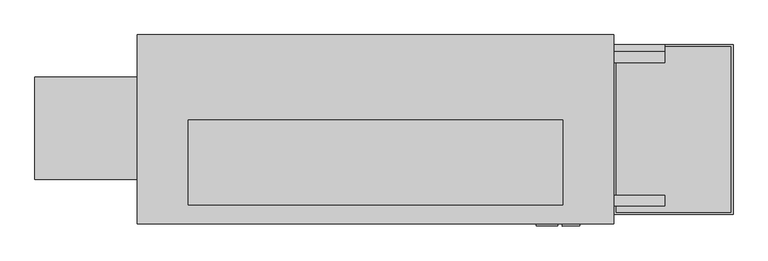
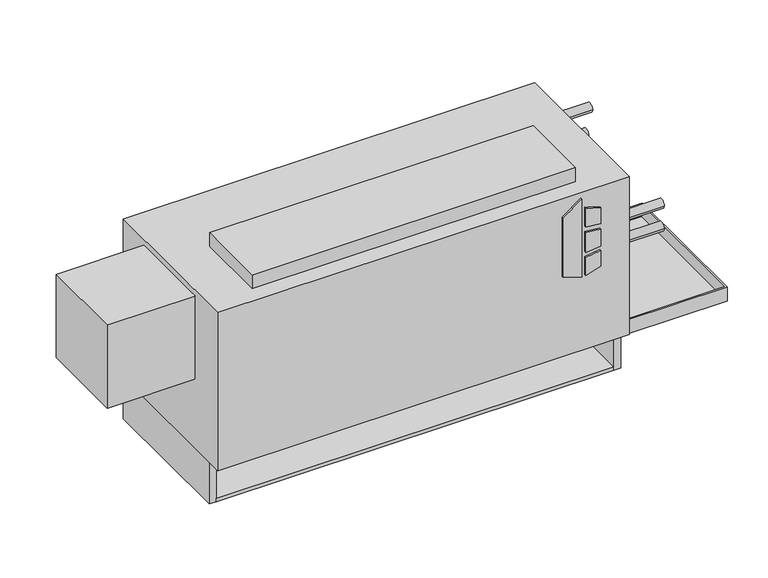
"""IFC4 building model written with IfcOpenShell, lengths in millimetres: proxy geometry, Concealed_Vertical_Low_Boy_Fan_Coil_Unit Fan_-_LHA_-_IEC_-_4-Pipe_RH_2022 : Size 03 - 277v/60Hz/1Ph - 2/1 Coil."""

import ifcopenshell
import ifcopenshell.guid

model = None  # the IFC model being written
_history = None  # IfcOwnerHistory: only IFC2X3 demands one
_inside = {}  # id of a spatial element -> (the spatial element, [elements in it])
_under = {}  # id of a project, library or spatial element -> (it, [spatial elements below it])
_declared = {}  # id of a project -> (the project, [libraries it declares])
_typed = {}  # id of a type object -> (the type object, [elements of that type])
_made_of = {}  # id of a material, layer set ... -> (it, [elements and type objects made of it])


def new_model(schema):
    """Start an empty IFC model of exactly this schema.

    Asked for "IFC4X3", IfcOpenShell would pick the latest addendum, in which some entities
    have other attributes; the version numbers below select the first issue.
    IFC2X3 requires an IfcOwnerHistory on every rooted entity: one is made here for all.
    """
    global model, _history
    if schema == "IFC4X3":
        model = ifcopenshell.file(schema_version=(4, 3, 0, 0))
    else:
        model = ifcopenshell.file(schema=schema)
    _inside.clear()
    _under.clear()
    _declared.clear()
    _typed.clear()
    _made_of.clear()
    _history = None
    if model.schema == "IFC2X3":
        org = make("IfcOrganization", Name="unknown")
        user = make(
            "IfcPersonAndOrganization",
            ThePerson=make("IfcPerson", FamilyName="unknown"),
            TheOrganization=org,
        )
        app = make(
            "IfcApplication",
            ApplicationDeveloper=org,
            Version="unknown",
            ApplicationFullName="unknown",
            ApplicationIdentifier="unknown",
        )
        _history = make(
            "IfcOwnerHistory",
            OwningUser=user,
            OwningApplication=app,
            ChangeAction="ADDED",
            CreationDate=0,
        )
    return model


def make(cls, **values):
    """One entity of the class cls with the attributes given. An attribute that is None is left unset."""
    return model.create_entity(
        cls, **{name: value for name, value in values.items() if value is not None}
    )


def rooted(cls, **values):
    """An entity with a GlobalId (a new one), such as an element, a storey or a relation."""
    return make(cls, GlobalId=ifcopenshell.guid.new(), OwnerHistory=_history, **values)


def si_unit(unit_type, name, prefix=None):
    """IfcSIUnit, for example si_unit("LENGTHUNIT", "METRE", prefix="MILLI")."""
    return make("IfcSIUnit", UnitType=unit_type, Prefix=prefix, Name=name)


def assignment(units):
    """IfcUnitAssignment: the units of a project."""
    return None if units is None else make("IfcUnitAssignment", Units=units)


def point(xyz):
    """IfcCartesianPoint."""
    return None if xyz is None else make("IfcCartesianPoint", Coordinates=xyz)


def direction(xyz):
    """IfcDirection."""
    return None if xyz is None else make("IfcDirection", DirectionRatios=xyz)


def frame(location, z_axis=None, x_axis=None):
    """IfcAxis2Placement3D, a coordinate frame: its origin and axes. An axis left out is left unset."""
    return make(
        "IfcAxis2Placement3D",
        Location=point(location),
        Axis=direction(z_axis),
        RefDirection=direction(x_axis),
    )


def frame_2d(location, x_axis=None):
    """IfcAxis2Placement2D, a coordinate frame in the plane: its origin and x axis."""
    return make(
        "IfcAxis2Placement2D", Location=point(location), RefDirection=direction(x_axis)
    )


def origin():
    """The frame at (0, 0, 0) with its axes left unset."""
    return frame((0.0, 0.0, 0.0))


def origin_with_axes():
    """The frame at (0, 0, 0) with the z axis (0, 0, 1) and the x axis (1, 0, 0) written out."""
    return frame((0.0, 0.0, 0.0), z_axis=(0.0, 0.0, 1.0), x_axis=(1.0, 0.0, 0.0))


def place(relative_to, where):
    """IfcLocalPlacement: puts the frame where relative to a parent placement (None: the world)."""
    return make(
        "IfcLocalPlacement", PlacementRelTo=relative_to, RelativePlacement=where
    )


def context(
    kind, dimensions, precision=None, world=None, true_north=None, identifier=None
):
    """IfcGeometricRepresentationContext, for example the 3D "Model" context."""
    return make(
        "IfcGeometricRepresentationContext",
        ContextIdentifier=identifier,
        ContextType=kind,
        CoordinateSpaceDimension=dimensions,
        Precision=precision,
        WorldCoordinateSystem=world,
        TrueNorth=true_north,
    )


def project(units=None, contexts=None):
    """IfcProject with its units and contexts."""
    return rooted(
        "IfcProject",
        Name="project",
        RepresentationContexts=contexts,
        UnitsInContext=assignment(units),
    )


def spatial(cls, under=None, at=None, **own):
    """A site, building, storey or space (cls), placed at a placement, below another one or the project."""
    s = rooted(cls, ObjectPlacement=at, **own)
    if under is not None:
        _under.setdefault(under.id(), (under, []))[1].append(s)
    return s


def polyline(points):
    """IfcPolyline through the points."""
    return make("IfcPolyline", Points=[point(p) for p in points])


def circle_curve(where, radius):
    """IfcCircle in the frame where."""
    return make("IfcCircle", Position=where, Radius=radius)


def trimmed(basis, trim1, trim2, sense, master):
    """IfcTrimmedCurve: the piece of a basis curve between two trims."""
    return make(
        "IfcTrimmedCurve",
        BasisCurve=basis,
        Trim1=trim1,
        Trim2=trim2,
        SenseAgreement=sense,
        MasterRepresentation=master,
    )


def segment(curve, same_sense, transition):
    """IfcCompositeCurveSegment."""
    return make(
        "IfcCompositeCurveSegment",
        Transition=transition,
        SameSense=same_sense,
        ParentCurve=curve,
    )


def composite_curve(segments, self_intersect=None):
    """IfcCompositeCurve: segments joined end to end."""
    return make("IfcCompositeCurve", Segments=segments, SelfIntersect=self_intersect)


def outline(outer, holes=None, kind="AREA"):
    """IfcArbitraryClosedProfileDef: a profile drawn as a closed curve; with holes, ...WithVoids."""
    if holes is None:
        return make("IfcArbitraryClosedProfileDef", ProfileType=kind, OuterCurve=outer)
    return make(
        "IfcArbitraryProfileDefWithVoids",
        ProfileType=kind,
        OuterCurve=outer,
        InnerCurves=holes,
    )


def extrude(swept, where, along, depth):
    """IfcExtrudedAreaSolid: the profile swept, set in the frame where, extruded along a direction by depth."""
    return make(
        "IfcExtrudedAreaSolid",
        SweptArea=swept,
        Position=where,
        ExtrudedDirection=direction(along),
        Depth=depth,
    )


def faces_of(points, faces, orient=None, outer=None):
    """IfcFace entities. A face is a list of loops; a loop is a list of indices into points, from 0.

    orient and outer hold one flag for each loop. By default every Orientation is true, the
    first loop of a face is its IfcFaceOuterBound and the others are IfcFaceBound.
    """
    made = []
    for i, loops in enumerate(faces):
        bounds = []
        for j, loop in enumerate(loops):
            is_outer = j == 0 if outer is None else outer[i][j]
            bounds.append(
                make(
                    "IfcFaceOuterBound" if is_outer else "IfcFaceBound",
                    Bound=make("IfcPolyLoop", Polygon=[points[k] for k in loop]),
                    Orientation=True if orient is None else orient[i][j],
                )
            )
        made.append(make("IfcFace", Bounds=bounds))
    return made


def faceted_brep(points, faces, orient=None, outer=None, voids=None):
    """IfcFacetedBrep: a solid bounded by flat faces; with voids (closed shells), ...WithVoids."""
    shared = [point(p) for p in points]
    hull = make("IfcClosedShell", CfsFaces=faces_of(shared, faces, orient, outer))
    if voids is None:
        return make("IfcFacetedBrep", Outer=hull)
    return make(
        "IfcFacetedBrepWithVoids",
        Outer=hull,
        Voids=[
            make(cls, CfsFaces=faces_of(shared, fs, o, b)) for cls, fs, o, b in voids
        ],
    )


def shape(context_of_items, identifier, shape_type, items):
    """IfcShapeRepresentation: the items that make up one representation, for example the "Body"."""
    return make(
        "IfcShapeRepresentation",
        ContextOfItems=context_of_items,
        RepresentationIdentifier=identifier,
        RepresentationType=shape_type,
        Items=items,
    )


def source(mapping_origin, context_of_items, identifier, shape_type, items):
    """IfcRepresentationMap: a shape defined once, which mapped items show again and again."""
    return make(
        "IfcRepresentationMap",
        MappingOrigin=mapping_origin,
        MappedRepresentation=shape(context_of_items, identifier, shape_type, items),
    )


def transform(
    local_origin,
    x_axis=None,
    y_axis=None,
    z_axis=None,
    scale=None,
    scale2=None,
    scale3=None,
    uniform=True,
):
    """IfcCartesianTransformationOperator3D, or its non-uniform kind. x_axis, y_axis, z_axis: its Axis1, 2, 3."""
    if uniform:
        return make(
            "IfcCartesianTransformationOperator3D",
            Axis1=direction(x_axis),
            Axis2=direction(y_axis),
            LocalOrigin=point(local_origin),
            Scale=scale,
            Axis3=direction(z_axis),
        )
    return make(
        "IfcCartesianTransformationOperator3DnonUniform",
        Axis1=direction(x_axis),
        Axis2=direction(y_axis),
        LocalOrigin=point(local_origin),
        Scale=scale,
        Axis3=direction(z_axis),
        Scale2=scale2,
        Scale3=scale3,
    )


def mapped(mapping_source, mapping_target):
    """IfcMappedItem: shows the shape of a source again, moved by a transform."""
    return make(
        "IfcMappedItem", MappingSource=mapping_source, MappingTarget=mapping_target
    )


def made_of(thing, what):
    """Note that an element or type object is made of a material, layer set ...; save() writes the relation."""
    if what is not None:
        _made_of.setdefault(what.id(), (what, []))[1].append(thing)
    return thing


def element(
    cls,
    number,
    at=None,
    inside=None,
    cuts=None,
    type_object=None,
    material=None,
    context=None,
    identifier="Body",
    shape_type=None,
    held_by="IfcProductDefinitionShape",
    body=None,
    shapes=None,
    **own,
):
    """One element of the class cls, such as IfcWall. Its Tag is "e" and its number.

    at: its placement. inside: the storey or other place that contains it. cuts: it is an
    opening in that element (IfcRelVoidsElement). A single representation is given by context,
    identifier, shape_type and body (its items); several are given by shapes. held_by: the class
    of the entity that holds the representations. save() writes the other relations.
    """
    e = rooted(cls, Tag="e%d" % number, ObjectPlacement=at, **own)
    if body is not None:
        shapes = [shape(context, identifier, shape_type, body)]
    if shapes is not None:
        e.Representation = make(held_by, Representations=shapes)
    if inside is not None:
        _inside.setdefault(inside.id(), (inside, []))[1].append(e)
    if cuts is not None:
        rooted(
            "IfcRelVoidsElement", RelatingBuildingElement=cuts, RelatedOpeningElement=e
        )
    if type_object is not None:
        _typed.setdefault(type_object.id(), (type_object, []))[1].append(e)
    return made_of(e, material)


def aggregate(whole, parts):
    """IfcRelAggregates: a whole, such as a stair, and the parts it consists of."""
    return rooted("IfcRelAggregates", RelatingObject=whole, RelatedObjects=parts)


def save(model, path):
    """Write the relations noted so far, then the file.

    IfcRelAggregates (storeys below a building ...), IfcRelContainedInSpatialStructure (elements
    in a storey), IfcRelDefinesByType, IfcRelAssociatesMaterial and IfcRelDeclares: one each for
    every whole, place, type object, material and project.
    """
    for whole, parts in _under.values():
        aggregate(whole, parts)
    for where, things in _inside.values():
        rooted(
            "IfcRelContainedInSpatialStructure",
            RelatedElements=things,
            RelatingStructure=where,
        )
    for kind, things in _typed.values():
        rooted("IfcRelDefinesByType", RelatedObjects=things, RelatingType=kind)
    for what, things in _made_of.values():
        rooted("IfcRelAssociatesMaterial", RelatedObjects=things, RelatingMaterial=what)
    for by, libraries in _declared.values():
        rooted("IfcRelDeclares", RelatingContext=by, RelatedDefinitions=libraries)
    model.write(path)


def mechanical_equipment_a121efba(model_context):
    return source(origin(), model_context, "Body", "SolidModel", [
        faceted_brep([(1041.4, -252.4125, 92.075), (863.6, -252.4125, 92.075), (863.6, -506.4125, 92.075), (1041.4, -506.4125, 92.075), (866.775, -255.5875, 92.075), (1038.225, -255.5875, 92.075), (1038.225, -503.2375, 92.075), (866.775, -503.2375, 92.075), (1041.4, -252.4125, 66.675), (1041.4, -506.4125, 66.675), (863.6, -506.4125, 66.675), (863.6, -252.4125, 66.675), (1038.225, -255.5875, 69.8497888), (866.775, -255.5875, 69.8497888), (866.775, -503.2375, 69.8497888), (1038.225, -503.2375, 69.8497888)], [[[0, 1, 2, 3], [4, 5, 6, 7]], [[8, 9, 10, 11]], [[1, 0, 8, 11]], [[2, 1, 11, 10]], [[3, 2, 10, 9]], [[0, 3, 9, 8]], [[12, 13, 14, 15]], [[13, 12, 5, 4]], [[14, 13, 4, 7]], [[15, 14, 7, 6]], [[12, 15, 6, 5]]]),
        extrude(outline(composite_curve([segment(trimmed(circle_curve(frame_2d((952.5, -379.4125)), 9.525), [point((942.975, -379.4125))], [point((962.025, -379.4125))], False, "CARTESIAN"), True, "CONTINUOUS"), segment(trimmed(circle_curve(frame_2d((952.5, -379.4125)), 9.525), [point((962.025, -379.4125))], [point((942.975, -379.4125))], False, "CARTESIAN"), True, "CONTINUOUS")], self_intersect=False)), frame((0.0, 0.0, 41.275), z_axis=(0.0, 0.0, 1.0), x_axis=(1.0, 0.0, 0.0)), (0.0, 0.0, 1.0), 25.4),
        extrude(outline(polyline([(222.6730703, 747.7868862), (212.725, 779.9602728), (354.8959244, 779.9602728), (331.8739183, 747.7868862), (222.6730703, 747.7868862)])), frame((0.0, -523.875, 0.0), z_axis=(0.0, 1.0, 0.0), x_axis=(0.0, 0.0, 1.0)), (0.0, 0.0, 1.0), 3.175),
        extrude(outline(polyline([(301.6723557, 786.7186058), (298.4699632, 812.8), (327.6988042, 812.8), (335.7632193, 786.7186058), (301.6723557, 786.7186058)])), frame((0.0, -523.875, 0.0), z_axis=(0.0, 1.0, 0.0), x_axis=(0.0, 0.0, 1.0)), (0.0, 0.0, 1.0), 3.175),
        extrude(outline(polyline([(249.8088288, 812.8), (246.1433279, 786.7186058), (212.725, 786.7186058), (221.3592372, 812.8), (249.8088288, 812.8)])), frame((0.0, -523.875, 0.0), z_axis=(0.0, 1.0, 0.0), x_axis=(0.0, 0.0, 1.0)), (0.0, 0.0, 1.0), 3.175),
        extrude(outline(polyline([(289.1239903, 812.8), (291.4058166, 786.7186058), (255.4682681, 786.7186058), (258.2095331, 812.8), (289.1239903, 812.8)])), frame((0.0, -523.875, 0.0), z_axis=(0.0, 1.0, 0.0), x_axis=(0.0, 0.0, 1.0)), (0.0, 0.0, 1.0), 3.175),
        extrude(outline(polyline([(787.4, -365.125), (787.4, -492.125), (228.6, -492.125), (228.6, -365.125), (787.4, -365.125)])), frame((0.0, 0.0, 365.125), z_axis=(0.0, 0.0, 1.0), x_axis=(1.0, 0.0, 0.0)), (0.0, 0.0, 1.0), 25.4),
        extrude(outline(polyline([(863.6, -520.7), (152.4, -520.7), (152.4, -238.125), (863.6, -238.125), (863.6, -520.7)])), frame((0.0, 0.0, 76.2), z_axis=(0.0, 0.0, 1.0), x_axis=(1.0, 0.0, 0.0)), (0.0, 0.0, 1.0), 288.925),
        extrude(outline(polyline([(850.9, -495.3), (165.1, -495.3), (165.1, -244.475), (850.9, -244.475), (850.9, -495.3)])), origin_with_axes(), (0.0, 0.0, 1.0), 6.35),
        extrude(outline(polyline([(850.9, -238.125), (850.9, -244.475), (165.1, -244.475), (165.1, -238.125), (850.9, -238.125)])), origin_with_axes(), (0.0, 0.0, 1.0), 76.2),
        extrude(outline(polyline([(863.6, -238.125), (863.6, -495.3), (850.9, -495.3), (850.9, -238.125), (863.6, -238.125)])), origin_with_axes(), (0.0, 0.0, 1.0), 76.2),
        extrude(outline(polyline([(165.1, -238.125), (165.1, -495.3), (152.4, -495.3), (152.4, -238.125), (165.1, -238.125)])), origin_with_axes(), (0.0, 0.0, 1.0), 76.2),
        extrude(outline(composite_curve([segment(trimmed(circle_curve(frame_2d((-271.4625, 314.325)), 7.9375), [point((-263.525, 314.325))], [point((-279.4, 314.325))], False, "CARTESIAN"), True, "CONTINUOUS"), segment(trimmed(circle_curve(frame_2d((-271.4625, 314.325)), 7.9375), [point((-279.4, 314.325))], [point((-263.525, 314.325))], False, "CARTESIAN"), True, "CONTINUOUS")], self_intersect=False)), frame((863.6, 0.0, 0.0), z_axis=(1.0, 0.0, 0.0), x_axis=(0.0, 1.0, 0.0)), (0.0, 0.0, 1.0), 76.2),
        extrude(outline(composite_curve([segment(trimmed(circle_curve(frame_2d((-260.35, 260.35)), 7.9375), [point((-252.4125, 260.35))], [point((-268.2875, 260.35))], False, "CARTESIAN"), True, "CONTINUOUS"), segment(trimmed(circle_curve(frame_2d((-260.35, 260.35)), 7.9375), [point((-268.2875, 260.35))], [point((-252.4125, 260.35))], False, "CARTESIAN"), True, "CONTINUOUS")], self_intersect=False)), frame((863.6, 0.0, 0.0), z_axis=(1.0, 0.0, 0.0), x_axis=(0.0, 1.0, 0.0)), (0.0, 0.0, 1.0), 76.2),
        extrude(outline(composite_curve([segment(trimmed(circle_curve(frame_2d((-485.775, 227.0125)), 7.9375), [point((-477.8375, 227.0125))], [point((-493.7125, 227.0125))], False, "CARTESIAN"), True, "CONTINUOUS"), segment(trimmed(circle_curve(frame_2d((-485.775, 227.0125)), 7.9375), [point((-493.7125, 227.0125))], [point((-477.8375, 227.0125))], False, "CARTESIAN"), True, "CONTINUOUS")], self_intersect=False)), frame((863.6, 0.0, 0.0), z_axis=(1.0, 0.0, 0.0), x_axis=(0.0, 1.0, 0.0)), (0.0, 0.0, 1.0), 76.2),
        extrude(outline(composite_curve([segment(trimmed(circle_curve(frame_2d((-485.775, 268.2875)), 7.9375), [point((-477.8375, 268.2875))], [point((-493.7125, 268.2875))], False, "CARTESIAN"), True, "CONTINUOUS"), segment(trimmed(circle_curve(frame_2d((-485.775, 268.2875)), 7.9375), [point((-493.7125, 268.2875))], [point((-477.8375, 268.2875))], False, "CARTESIAN"), True, "CONTINUOUS")], self_intersect=False)), frame((863.6, 0.0, 0.0), z_axis=(1.0, 0.0, 0.0), x_axis=(0.0, 1.0, 0.0)), (0.0, 0.0, 1.0), 76.2),
        extrude(outline(polyline([(0.0, -301.625), (152.4, -301.625), (152.4, -454.025), (0.0, -454.025), (0.0, -301.625)])), frame((0.0, 0.0, 203.5632719), z_axis=(0.0, 0.0, 1.0), x_axis=(1.0, 0.0, 0.0)), (0.0, 0.0, 1.0), 152.0367281),
    ])


if __name__ == "__main__":
    model = new_model("IFC4")
    model_context = context("Model", 3, world=origin())
    ifc_project = project(units=[si_unit("LENGTHUNIT", "METRE", prefix="MILLI")], contexts=[model_context])
    site = spatial("IfcSite", under=ifc_project)
    building = spatial("IfcBuilding", under=site)
    placement = place(None, origin())
    mechanical_equipment_shape = mechanical_equipment_a121efba(model_context)
    element("IfcBuildingElementProxy", 1, Name="Concealed_Vertical_Low_Boy_Fan_Coil_Unit Fan_-_LHA_-_IEC_-_4-Pipe_RH_2022 : Size 03 - 277v/60Hz/1Ph - 2/1 Coil", ObjectType="Concealed_Vertical_Low_Boy_Fan_Coil_Unit Fan_-_LHA_-_IEC_-_4-Pipe_RH_2022 : Size 03 - 277v/60Hz/1Ph - 2/1 Coil", at=placement, inside=building, context=model_context, shape_type="MappedRepresentation", body=[
        mapped(mechanical_equipment_shape, transform((0.0, 0.0, 0.0), x_axis=(1.0, 0.0, 0.0), y_axis=(0.0, 1.0, 0.0), z_axis=(0.0, 0.0, 1.0))),
    ])
    save(model, "model.ifc")
